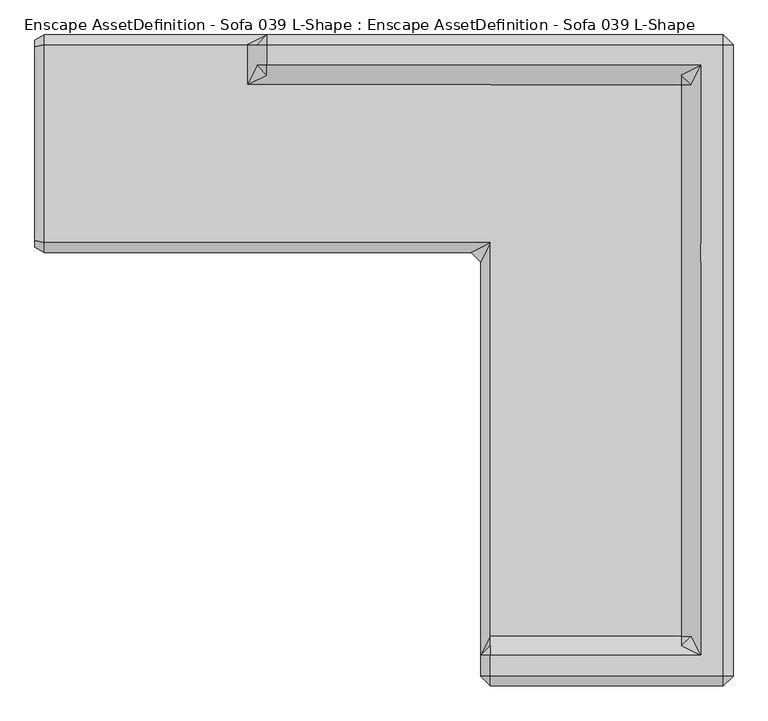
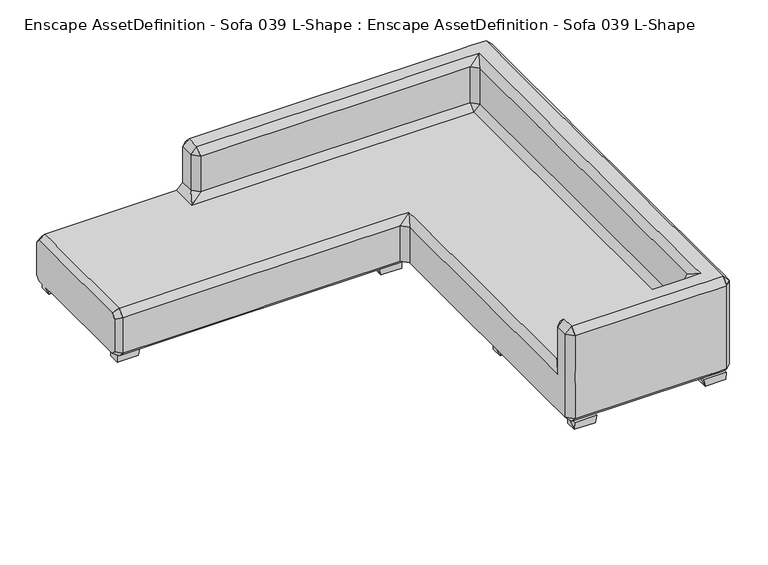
"""IFC4 building model written with IfcOpenShell, lengths in millimetres: geographic element geometry, Enscape AssetDefinition - Sofa 039 L-Shape : Enscape AssetDefinition - Sofa 039 L-Shape."""

from ifc_helpers import new_model, si_unit, origin, place, context, project, spatial, triangles, source, transform, mapped, element, save


def enscape_assetdefinition_sofa_039_l_shape_enscape_ea6e479c(model_context):
    return source(origin(), model_context, "Body", "Tessellation", [
        triangles([(399.1123392, 332.3144543, 54.8074377), (565.0836402, 247.5554382, 56.6973478), (565.0836402, 332.3144543, 54.8074377), (565.0836402, 247.5554382, 0.0), (397.1924346, 247.5554382, 54.8324362), (406.0200208, 330.4245624, 1.863913), (408.2209039, 247.5554382, 0.0), (565.0836402, 330.4245624, 0.0), (566.9734594, 1225.0928089, 54.8074377), (399.1123392, 1226.9826645, 54.8074377), (565.0836402, 1142.2235939, 0.0), (406.0200208, 1142.2235939, 1.863913), (408.2209039, 1225.0928089, 0.0), (565.0836402, 1225.0928089, 0.0), (399.1123392, 1140.3337383, 54.8074377), (566.9734594, 1142.2235939, 54.8074377), (1606.1138832, 247.5554382, 1.863913), (1765.17743, 247.5554382, 0.0), (1597.286515, 247.5554382, 54.8324362), (1765.17743, 245.6665273, 54.8074377), (1765.17743, 332.3144543, 1.8899116), (1599.2063107, 332.3144543, 54.8074377), (1608.3149117, 330.4245624, 0.0), (1765.17743, 332.3144543, 54.8074377), (1765.17743, 1226.9826645, 54.8074377), (1765.17743, 1142.2235939, 0.0), (1606.1138832, 1142.2235939, 1.863913), (1765.17743, 1225.0928089, 0.0), (1606.1138832, 1225.0928089, 1.863913), (1599.2063107, 1226.9826645, 54.8074377), (1599.2063107, 1140.3337383, 54.8074377), (1765.17743, 1140.3337383, 54.8074377), (1767.0672855, -1906.9429047, 54.8074377), (1597.286515, -1906.9429047, 54.8334399), (1765.17743, -1906.9429047, 0.0), (1597.286515, -1824.073835, 54.8334399), (1606.1138832, -1824.073835, 1.8649127), (1608.3149117, -1906.9429047, 0.0), (1765.17743, -1822.1848515, 54.8074377), (1765.17743, -1824.073835, 0.0), (1597.286515, -936.6802534, 54.8334399), (1765.17743, -938.5691643, 54.8074377), (1765.17743, -936.6802534, 0.0), (1608.3149117, -853.8101664, 0.0), (1599.2063107, -851.9211828, 54.8074377), (1765.17743, -851.9211828, 54.8074377), (1765.17743, -853.8101664, 0.0), (1608.3149117, -936.6802534, 0.0), (1597.286515, 179.2316289, 54.8324362), (1765.17743, 94.4735848, 54.8074377), (1765.17743, 181.121539, 54.8074377), (1765.17743, 96.3625048, 0.0), (1597.286515, 96.3625048, 54.8334399), (1608.3149117, 96.3625048, 0.0), (1608.3149117, 179.2316289, 0.0), (1765.17743, 181.121539, 1.8899116), (789.2041534, -1908.8327602, 54.8074377), (789.2041534, -1822.1848515, 54.8074377), (621.3429605, -1906.9429047, 1.8899116), (623.2328161, -1908.8327602, 54.8074377), (621.3429605, -1824.073835, 54.8074377), (780.0955524, -1906.9429047, 0.0), (621.3429605, -1824.073835, 1.8899116), (782.2965082, -1824.073835, 1.8649127), (621.3429605, -853.8101664, 1.8899116), (621.3429605, -853.8101664, 54.8074377), (621.3429605, -936.6802534, 54.8074377), (780.0955524, -853.8101664, 0.0), (789.2041534, -851.9211828, 54.8074377), (623.2328161, -936.6802534, 0.0), (789.2041534, -938.5691643, 54.8074377), (780.0955524, -936.6802534, 0.0), (-1419.1636665, 247.5554382, 0.0), (-1408.4432453, 247.5554382, 54.8074377), (-1578.2241611, 247.5554382, 54.8324362), (-1576.0263302, 330.4245624, 0.0), (-1578.2272133, 247.5554382, 1.863913), (-1576.3043655, 332.3144543, 54.8074377), (-1410.3331009, 332.3144543, 54.8074377), (-1419.1636665, 330.4245624, 0.0), (-1410.3331009, 1226.9826645, 54.8074377), (-1419.1636665, 1225.0928089, 0.0), (-1419.1636665, 1142.2235939, 0.0), (-1410.3331009, 1140.3337383, 54.8074377), (-1576.0263302, 1142.2235939, 0.0), (-1576.0263302, 1225.0928089, 0.0), (-1576.3043655, 1226.9826645, 54.8074377), (-1576.6453331, 1142.2235939, 56.6973478), (1802.809726, -1785.966568, 387.4318748), (1802.809726, -1785.966568, 103.9451451), (1802.809726, -1887.5208344, 103.9451451), (1802.809726, -1691.4710278, 387.4318748), (1802.809726, -1691.4710278, 103.9451451), (1802.809726, -1785.966568, 481.9274878), (1802.809726, -1691.4710278, 481.9274878), (1802.809726, 141.7433649, 481.9274878), (1802.809726, 141.7433649, 765.4142538), (1802.809726, -1785.966568, 765.4142538), (1755.5620285, -1785.966568, 812.6620239), (1802.809726, -1691.4710278, 765.4142538), (1755.5620285, -1887.5208344, 812.6620239), (1802.809726, -1887.5208344, 765.4142538), (1802.809726, -1887.5208344, 481.9274878), (1644.2230396, -1691.4710278, 812.6620239), (1755.5620285, -1691.4710278, 812.6620239), (1755.5620285, 141.7433649, 812.6620239), (1644.2230396, 141.7433649, 812.6620239), (1755.5620285, 236.2389596, 812.6620239), (1644.2230396, 236.2389596, 812.6620239), (1644.2230396, 1011.1028183, 812.6620239), (1755.5620285, 1011.1028183, 812.6620239), (1802.809726, 1011.1028183, 765.4142538), (1802.809726, 236.2389596, 765.4142538), (1802.809726, 236.2389596, 481.9274878), (1755.5620285, 1105.5983585, 812.6620239), (1802.809726, 1207.4235386, 765.4142538), (1755.5620285, 1207.4246286, 812.6620239), (1802.809726, 1105.5983585, 765.4142538), (1802.809726, 1105.5983585, 481.9274878), (1755.5620285, 1254.6713814, 765.4142538), (1644.2230396, 1254.6713814, 765.4142538), (1802.809726, 1207.4235386, 387.4318748), (1802.809726, 1207.4235386, 481.9274878), (1802.809726, 1207.4235386, 103.9451451), (1802.809726, 1105.5983585, 387.4318748), (1802.809726, 1011.1028183, 481.9274878), (1802.809726, 1011.1028183, 103.9451451), (1802.809726, 1105.5983585, 103.9451451), (1802.809726, 1011.1028183, 387.4318748), (1802.809726, 236.2389596, 103.9451451), (1755.5620285, 1011.1028183, 56.6973478), (1802.809726, 236.2389596, 387.4318748), (1802.809726, 141.7433649, 103.9451451), (1802.809726, 141.7433649, 387.4318748), (1755.5620285, -1691.4710278, 56.6973478), (1644.2230396, -1785.966568, 56.6973478), (1755.5620285, -1785.966568, 56.6973478), (1755.5620285, -1887.5208344, 56.6973478), (1644.2230396, -1887.5208344, 56.6973478), (1549.7274994, -1785.966568, 56.6973478), (614.2213022, -1887.5208344, 56.6973478), (614.2213022, -1785.966568, 56.6973478), (1549.7274994, -1691.4710278, 56.6973478), (1549.7274994, -1887.5208344, 56.6973478), (1644.2230396, -1691.4710278, 56.6973478), (566.9734594, -1887.5208344, 103.9451451), (566.9734594, -1691.4710278, 103.9451451), (614.2213022, -1691.4710278, 56.6973478), (1549.7274994, 141.7433649, 56.6973478), (566.9734594, -1785.966568, 103.9451451), (566.9734594, -1785.966568, 387.4318748), (566.9734594, -1691.4710278, 387.4318748), (566.9734594, 141.7433649, 103.9451451), (614.2213022, 141.7433649, 434.6796813), (614.2213022, -1691.4710278, 434.6796813), (1549.7274994, -1691.4710278, 434.6796813), (614.2213022, 236.2389596, 434.6796813), (566.9734594, 141.7433649, 387.4318748), (519.7257257, 188.9911531, 387.4318748), (1549.7274994, 236.2389596, 434.6796813), (519.7257257, 236.2389596, 434.6796813), (1549.7274994, 141.7433649, 434.6796813), (1549.7274994, 1011.1028183, 434.6796813), (614.2213022, 1058.3505884, 481.9274878), (1596.9753422, 1011.1028183, 765.4142538), (1596.9753422, 1011.1028183, 481.9274878), (1596.9753422, 236.2389596, 765.4142538), (1596.9753422, 141.7433649, 481.9274878), (1596.9753422, 236.2389596, 481.9274878), (1644.2230396, 1105.5983585, 812.6620239), (1644.2230396, 1207.4246286, 812.6620239), (1549.7274994, 1058.3505884, 481.9274878), (1549.7274994, 1058.3505884, 765.4142538), (614.2213022, 1105.5983585, 812.6620239), (1549.7274994, 1105.5983585, 812.6620239), (1549.7274994, 1254.6713814, 765.4142538), (1549.7274994, 1207.4246286, 812.6620239), (519.7257257, 1207.4246286, 812.6620239), (614.2213022, 1207.4246286, 812.6620239), (614.2213022, 1058.3505884, 765.4142538), (519.7257257, 1105.5983585, 812.6620239), (519.7257257, 1058.3505884, 765.4142538), (-480.560529, 1207.4246286, 812.6620239), (-527.8082992, 1105.5983585, 765.4142538), (-480.560529, 1105.5983585, 812.6620239), (-480.560529, 1058.3505884, 765.4142538), (519.7257257, 1058.3505884, 481.9274878), (-480.560529, 1058.3505884, 481.9274878), (614.2213022, 1011.1028183, 434.6796813), (-527.8082992, 1105.5983585, 481.9274878), (519.7257257, 1011.1028183, 434.6796813), (-575.0561419, 1011.1028183, 434.6796813), (-480.560529, 1011.1028183, 434.6796813), (-575.0561419, 236.2389596, 434.6796813), (-1568.6267818, 1011.1028183, 434.6796813), (-1568.6267818, 236.2389596, 434.6796813), (-1615.4085194, 247.4074276, 407.7149755), (-575.0561419, 188.9911531, 387.4318748), (-1615.4085194, 215.9559135, 376.2624258), (-1568.6267818, 188.9911531, 387.4318748), (-1568.6267818, 188.9911531, 103.9451451), (-575.0561419, 188.9911531, 103.9451451), (-1568.6267818, 236.2389596, 56.6973478), (-1615.4085194, 215.9559135, 115.1146214), (-1615.4085194, 247.4084268, 83.6620809), (-575.0570867, 1011.1028183, 56.6973478), (-575.0561419, 236.2389596, 56.6973478), (-480.560529, 188.9911531, 387.4318748), (-480.560529, 188.9911531, 103.9451451), (-480.560529, 236.2389596, 56.6973478), (519.7257257, 1011.1028183, 56.6973478), (519.7257257, 236.2389596, 56.6973478), (614.2213022, 236.2389596, 56.6973478), (519.7257257, 188.9911531, 103.9451451), (-480.560529, 236.2389596, 434.6796813), (1549.7274994, 1011.1028183, 56.6973478), (614.2213022, 1011.1028183, 56.6973478), (614.2213022, 141.7433649, 56.6973478), (1549.7274994, 1105.5983585, 56.6973478), (519.7257257, 1207.4235386, 56.6973478), (614.2213022, 1105.5983585, 56.6973478), (1644.2230396, 1105.5983585, 56.6973478), (1644.2230396, 1207.4235386, 56.6973478), (1755.5620285, 1254.6713814, 103.9451451), (1549.7274994, 1207.4235386, 56.6973478), (1644.2230396, 1254.6713814, 103.9451451), (614.2213022, 1207.4235386, 56.6973478), (1549.7274994, 1254.6713814, 103.9451451), (614.2213022, 1254.6713814, 103.9451451), (1644.2230396, 1254.6713814, 481.9274878), (1644.2230396, 1254.6713814, 387.4318748), (1549.7274994, 1254.6713814, 387.4318748), (614.2213022, 1254.6713814, 387.4318748), (519.7257257, 1254.6713814, 387.4318748), (614.2213022, 1254.6713814, 481.9274878), (519.7257257, 1254.6713814, 103.9451451), (-480.560529, 1254.6713814, 387.4318748), (-480.5615101, 1207.4235386, 56.6973478), (-480.5615101, 1254.6713814, 103.9451451), (-1568.6267818, 1207.4235386, 56.6973478), (-480.5615101, 1105.5983585, 56.6973478), (-575.0570867, 1207.4235386, 56.6973478), (-1568.6267818, 1105.5983585, 56.6973478), (-575.0570867, 1254.6713814, 103.9451451), (-575.0561419, 1207.4235386, 434.6796813), (-575.0561419, 1254.6713814, 387.4318748), (519.7257257, 1254.6713814, 481.9274878), (-527.8082992, 1207.4235386, 481.9274878), (-527.8082992, 1207.4235386, 765.4142538), (-480.560529, 1254.6713814, 481.9274878), (-480.560529, 1254.6713814, 765.4142538), (519.7257257, 1254.6713814, 765.4142538), (614.2213022, 1254.6713814, 765.4142538), (1549.7274994, 1254.6713814, 481.9274878), (1755.5620285, 1254.6713814, 481.9274878), (1755.5620285, 1254.6713814, 387.4318748), (-575.0561419, 1105.5983585, 434.6796813), (-1615.4085194, 1196.2541622, 407.7149755), (-1568.6267818, 1105.5983585, 434.6796813), (-1568.6267818, 1207.4235386, 434.6796813), (-1568.6267818, 1254.6713814, 387.4318748), (-1615.4085194, 1227.7076202, 376.2634068), (-1615.4085194, 1227.7076202, 115.1146214), (-1615.4085194, 1105.5983585, 407.7149755), (-1615.4085194, 1011.1028183, 83.6620809), (-1615.4085194, 1011.1028183, 407.7149755), (-1615.4085194, 1105.5983585, 83.6610907), (-1615.4085194, 1196.2541622, 83.6610907), (-1568.6267818, 1254.6713814, 103.9451451), (-1568.6267818, 1011.1028183, 56.6973478), (-575.0570867, 1105.5983585, 56.6973478), (-480.5615101, 1011.1028183, 56.6973478), (519.7257257, 1105.5983585, 56.6973478), (1755.5620285, 1207.4235386, 56.6973478), (1755.5620285, 1105.5983585, 56.6973478), (1644.2230396, 1011.1028183, 56.6973478), (1549.7274994, 236.2389596, 56.6973478), (1644.2230396, 236.2389596, 56.6973478), (1644.2230396, 141.7433649, 56.6973478), (1755.5620285, 236.2389596, 56.6973478), (1755.5620285, 141.7433649, 56.6973478), (1596.9753422, 141.7433649, 765.4142538), (1596.9753422, -1691.4710278, 481.9274878), (1549.7274994, -1738.7187252, 481.9274878), (1596.9753422, -1691.4710278, 765.4142538), (614.2213022, -1738.7187252, 481.9274878), (1549.7274994, -1738.7187252, 765.4142538), (1549.7274994, -1785.966568, 812.6620239), (1644.2230396, -1887.5208344, 812.6620239), (1644.2230396, -1785.966568, 812.6620239), (1549.7274994, -1887.5208344, 812.6620239), (614.2213022, -1738.7187252, 765.4142538), (566.9734594, -1785.966568, 765.4142538), (566.9734594, -1785.966568, 481.9274878), (614.2213022, -1887.5208344, 812.6620239), (614.2213022, -1785.966568, 812.6620239), (566.9734594, -1887.5208344, 765.4142538), (614.2213022, -1934.7686771, 765.4142538), (1549.7274994, -1934.7686771, 765.4142538), (1644.2230396, -1934.7686771, 765.4142538), (1755.5620285, -1934.7686771, 765.4142538), (1644.2230396, -1934.7686771, 387.4318748), (1644.2230396, -1934.7686771, 481.9274878), (1549.7274994, -1934.7686771, 481.9274878), (566.9734594, -1887.5208344, 481.9274878), (614.2213022, -1934.7686771, 481.9274878), (1549.7274994, -1934.7686771, 387.4318748), (1549.7274994, -1934.7686771, 103.9451451), (1644.2230396, -1934.7686771, 103.9451451), (1755.5620285, -1934.7686771, 103.9451451), (1802.809726, -1887.5208344, 387.4318748), (1755.5620285, -1934.7686771, 387.4318748), (1755.5620285, -1934.7686771, 481.9274878), (614.2213022, -1934.7686771, 103.9451451), (614.2213022, -1934.7686771, 387.4318748), (566.9734594, -1887.5208344, 387.4318748)], [[156, 168, 162], [316, 305, 294], [315, 305, 316], [146, 315, 316], [146, 314, 315], [289, 301, 101], [102, 101, 301], [313, 102, 301], [301, 303, 313], [313, 103, 102], [103, 313, 312], [303, 312, 313], [310, 311, 312], [103, 312, 311], [312, 309, 310], [308, 309, 302], [303, 302, 312], [312, 302, 309], [307, 315, 314], [308, 302, 307], [307, 314, 308], [306, 315, 307], [315, 306, 305], [304, 307, 302], [306, 307, 304], [304, 302, 303], [304, 303, 300], [289, 300, 301], [301, 300, 303], [304, 300, 299], [299, 306, 304], [305, 306, 298], [299, 298, 306], [305, 298, 297], [295, 298, 299], [298, 295, 297], [300, 289, 291], [295, 299, 291], [300, 291, 299], [296, 295, 291], [293, 297, 295], [293, 294, 305], [293, 295, 296], [293, 305, 297], [293, 286, 294], [293, 292, 286], [293, 296, 292], [288, 291, 289], [288, 292, 296], [296, 291, 288], [290, 289, 101], [288, 289, 290], [288, 287, 292], [287, 288, 290], [287, 284, 286], [287, 286, 292], [285, 287, 290], [156, 283, 168], [287, 285, 283], [287, 283, 284], [284, 283, 156], [282, 168, 283], [282, 283, 285], [218, 277, 149], [145, 149, 279], [277, 279, 149], [281, 145, 279], [279, 280, 281], [278, 277, 216], [279, 278, 280], [277, 278, 279], [278, 216, 276], [131, 280, 278], [131, 278, 276], [276, 275, 131], [128, 131, 275], [274, 128, 275], [274, 124, 128], [272, 273, 211], [272, 241, 273], [206, 241, 272], [206, 271, 241], [205, 265, 270], [270, 271, 206], [270, 243, 271], [268, 240, 243], [268, 269, 240], [268, 263, 269], [267, 243, 270], [263, 268, 267], [267, 270, 265], [268, 243, 267], [265, 205, 266], [267, 265, 266], [266, 264, 267], [262, 263, 264], [264, 263, 267], [258, 262, 264], [263, 262, 261], [258, 261, 262], [263, 261, 269], [258, 260, 261], [258, 264, 259], [258, 259, 260], [266, 259, 264], [245, 260, 259], [190, 245, 257], [245, 261, 260], [245, 259, 257], [255, 256, 231], [255, 231, 230], [121, 255, 230], [230, 176, 121], [230, 254, 176], [253, 176, 254], [253, 254, 235], [235, 252, 253], [235, 247, 252], [251, 252, 247], [250, 249, 251], [251, 247, 250], [190, 248, 245], [250, 248, 249], [248, 190, 184], [248, 184, 249], [245, 248, 237], [247, 237, 250], [248, 250, 237], [245, 246, 261], [237, 246, 245], [240, 269, 244], [261, 246, 244], [261, 244, 269], [242, 271, 243], [241, 271, 242], [242, 243, 240], [240, 244, 242], [239, 244, 246], [239, 246, 237], [239, 242, 244], [239, 238, 242], [241, 242, 238], [220, 273, 241], [220, 241, 238], [238, 239, 236], [238, 236, 220], [237, 236, 239], [247, 234, 237], [237, 234, 236], [229, 236, 234], [220, 236, 229], [220, 229, 227], [247, 235, 233], [229, 234, 233], [254, 233, 235], [247, 233, 234], [254, 232, 233], [230, 231, 232], [230, 232, 254], [227, 229, 228], [233, 232, 228], [233, 228, 229], [227, 228, 225], [226, 228, 232], [226, 232, 231], [226, 225, 228], [124, 224, 256], [231, 256, 224], [224, 124, 274], [231, 224, 226], [223, 226, 224], [226, 223, 225], [223, 224, 274], [276, 222, 275], [222, 276, 216], [274, 275, 222], [222, 225, 223], [274, 222, 223], [222, 219, 225], [222, 216, 219], [221, 273, 220], [211, 273, 221], [225, 219, 221], [221, 220, 227], [225, 221, 227], [217, 221, 219], [217, 219, 216], [211, 221, 217], [218, 213, 277], [216, 277, 213], [213, 211, 217], [213, 218, 153], [216, 213, 217], [194, 208, 215], [159, 161, 215], [159, 215, 208], [153, 214, 213], [153, 159, 214], [213, 212, 211], [214, 212, 213], [211, 212, 210], [210, 206, 272], [211, 210, 272], [209, 210, 212], [159, 208, 209], [209, 212, 214], [159, 209, 214], [208, 202, 209], [210, 207, 206], [209, 202, 207], [209, 207, 210], [205, 270, 203], [206, 207, 203], [206, 203, 270], [204, 205, 203], [205, 204, 199], [204, 203, 201], [201, 203, 207], [201, 207, 202], [208, 198, 202], [194, 198, 208], [198, 201, 202], [204, 201, 200], [204, 200, 199], [198, 200, 201], [197, 199, 200], [197, 266, 205], [199, 197, 205], [197, 200, 196], [198, 194, 196], [198, 196, 200], [197, 196, 195], [266, 195, 259], [197, 195, 266], [195, 196, 194], [192, 257, 259], [192, 259, 195], [190, 257, 192], [195, 194, 192], [194, 215, 193], [193, 215, 161], [194, 193, 192], [161, 189, 191], [193, 161, 191], [188, 190, 192], [192, 193, 188], [191, 188, 193], [190, 188, 186], [190, 186, 184], [191, 187, 188], [187, 191, 189], [186, 188, 187], [187, 189, 164], [187, 164, 180], [180, 164, 172], [187, 180, 182], [186, 187, 182], [182, 185, 186], [184, 186, 185], [184, 185, 183], [184, 183, 249], [249, 183, 251], [178, 252, 251], [253, 252, 178], [178, 251, 183], [182, 181, 185], [181, 182, 180], [183, 185, 181], [183, 181, 178], [181, 180, 174], [181, 174, 179], [181, 179, 178], [253, 178, 179], [177, 176, 253], [177, 253, 179], [176, 177, 171], [176, 171, 121], [179, 174, 175], [175, 171, 177], [179, 175, 177], [173, 175, 174], [173, 174, 180], [180, 172, 173], [175, 170, 171], [170, 175, 173], [165, 173, 172], [110, 170, 165], [165, 170, 173], [167, 110, 165], [169, 168, 282], [169, 282, 167], [169, 162, 168], [165, 169, 167], [165, 166, 169], [165, 172, 166], [163, 172, 164], [163, 164, 189], [166, 172, 163], [160, 169, 166], [169, 160, 162], [160, 166, 163], [189, 160, 163], [162, 160, 157], [161, 157, 189], [161, 159, 157], [189, 157, 160], [153, 158, 159], [159, 158, 157], [162, 157, 154], [158, 154, 157], [154, 156, 162], [284, 156, 155], [154, 155, 156], [284, 155, 286], [152, 155, 154], [152, 158, 153], [152, 154, 158], [151, 294, 286], [155, 152, 151], [316, 294, 151], [151, 286, 155], [151, 146, 316], [151, 150, 146], [151, 152, 147], [151, 147, 150], [152, 153, 147], [148, 147, 153], [148, 153, 218], [149, 148, 218], [145, 143, 149], [149, 143, 148], [142, 148, 143], [147, 148, 142], [147, 142, 150], [141, 146, 150], [141, 150, 142], [314, 146, 141], [144, 308, 314], [309, 308, 144], [144, 314, 141], [140, 143, 145], [140, 144, 141], [142, 143, 140], [140, 141, 142], [140, 145, 136], [139, 144, 140], [139, 140, 136], [309, 144, 139], [138, 310, 309], [138, 309, 139], [310, 91, 311], [91, 310, 138], [137, 138, 139], [137, 91, 138], [137, 139, 136], [136, 145, 135], [281, 135, 145], [136, 135, 137], [137, 90, 91], [90, 137, 135], [281, 93, 135], [90, 135, 93], [281, 133, 93], [134, 93, 133], [114, 96, 134], [133, 132, 134], [114, 134, 132], [133, 130, 132], [130, 133, 281], [131, 130, 280], [130, 281, 280], [131, 127, 130], [128, 127, 131], [114, 132, 129], [129, 132, 130], [129, 130, 127], [114, 129, 126], [127, 128, 125], [127, 125, 129], [125, 126, 129], [122, 125, 128], [124, 256, 122], [255, 122, 256], [122, 128, 124], [119, 125, 122], [125, 119, 126], [255, 123, 122], [119, 122, 123], [123, 255, 120], [121, 120, 255], [117, 120, 121], [117, 121, 171], [123, 120, 116], [120, 117, 116], [116, 119, 123], [126, 119, 118], [116, 118, 119], [115, 118, 116], [171, 170, 115], [115, 116, 117], [171, 115, 117], [111, 115, 170], [111, 170, 110], [115, 111, 112], [126, 118, 112], [115, 112, 118], [112, 114, 126], [96, 114, 113], [112, 113, 114], [96, 113, 97], [108, 113, 112], [108, 112, 111], [108, 97, 113], [110, 108, 111], [167, 109, 110], [109, 167, 282], [110, 109, 108], [106, 108, 109], [108, 106, 97], [285, 107, 282], [106, 109, 107], [109, 282, 107], [285, 104, 107], [290, 104, 285], [107, 104, 105], [105, 97, 106], [107, 105, 106], [99, 105, 104], [99, 104, 290], [290, 101, 99], [101, 102, 98], [98, 102, 103], [101, 98, 99], [105, 100, 97], [100, 105, 99], [100, 99, 98], [97, 100, 95], [95, 134, 96], [97, 95, 96], [94, 95, 100], [94, 100, 98], [98, 103, 94], [90, 93, 92], [95, 92, 134], [134, 92, 93], [94, 92, 95], [103, 311, 89], [94, 89, 92], [89, 311, 91], [103, 89, 94], [90, 92, 89], [89, 91, 90], [85, 84, 88], [87, 85, 88], [87, 86, 85], [85, 86, 82], [85, 83, 84], [85, 82, 83], [88, 84, 81], [86, 87, 81], [81, 84, 83], [88, 81, 87], [86, 81, 82], [81, 83, 82], [76, 79, 80], [76, 78, 79], [77, 76, 80], [78, 76, 77], [78, 77, 75], [77, 80, 73], [79, 73, 80], [74, 79, 78], [79, 74, 73], [74, 75, 77], [74, 78, 75], [74, 77, 73], [69, 72, 68], [69, 71, 72], [72, 71, 67], [72, 67, 70], [72, 65, 68], [72, 70, 65], [71, 66, 67], [68, 66, 69], [66, 70, 67], [71, 69, 66], [68, 65, 66], [66, 65, 70], [64, 63, 61], [64, 61, 58], [62, 63, 64], [58, 62, 64], [58, 57, 62], [62, 59, 63], [61, 63, 59], [60, 58, 61], [61, 59, 60], [60, 62, 57], [60, 57, 58], [60, 59, 62], [55, 51, 56], [55, 49, 51], [54, 55, 56], [49, 55, 54], [49, 54, 53], [54, 56, 52], [51, 52, 56], [50, 51, 49], [51, 50, 52], [50, 53, 54], [50, 49, 53], [50, 54, 52], [48, 42, 41], [45, 48, 41], [45, 44, 48], [48, 44, 47], [48, 43, 42], [48, 47, 43], [41, 42, 46], [44, 45, 46], [46, 42, 43], [41, 46, 45], [44, 46, 47], [46, 43, 47], [37, 39, 40], [37, 36, 39], [38, 37, 40], [36, 37, 38], [36, 38, 34], [38, 40, 35], [39, 35, 40], [33, 39, 36], [39, 33, 35], [33, 34, 38], [33, 36, 34], [33, 38, 35], [27, 32, 31], [30, 27, 31], [30, 29, 27], [27, 29, 28], [27, 26, 32], [27, 28, 26], [31, 32, 25], [29, 30, 25], [25, 32, 26], [31, 25, 30], [29, 25, 28], [25, 26, 28], [23, 24, 21], [23, 22, 24], [17, 23, 21], [22, 23, 17], [22, 17, 19], [17, 21, 18], [24, 18, 21], [20, 24, 22], [24, 20, 18], [20, 19, 17], [20, 22, 19], [20, 17, 18], [12, 16, 15], [10, 12, 15], [10, 13, 12], [12, 13, 14], [12, 11, 16], [12, 14, 11], [15, 16, 9], [13, 10, 9], [9, 16, 11], [15, 9, 10], [13, 9, 14], [9, 11, 14], [6, 3, 8], [6, 1, 3], [7, 6, 8], [1, 6, 7], [1, 7, 5], [7, 8, 4], [3, 4, 8], [2, 3, 1], [3, 2, 4], [2, 5, 7], [2, 1, 5], [2, 7, 4]]),
    ])


if __name__ == "__main__":
    model = new_model("IFC4")
    model_context = context("Model", 3, world=origin())
    ifc_project = project(units=[si_unit("LENGTHUNIT", "METRE", prefix="MILLI")], contexts=[model_context])
    site = spatial("IfcSite", under=ifc_project)
    building = spatial("IfcBuilding", under=site)
    placement = place(None, origin())
    enscape_assetdefinition_sofa_039_l_shape_enscape_shape = enscape_assetdefinition_sofa_039_l_shape_enscape_ea6e479c(model_context)
    element("IfcGeographicElement", 1, ObjectType="Enscape AssetDefinition - Sofa 039 L-Shape : Enscape AssetDefinition - Sofa 039 L-Shape", at=placement, inside=building, context=model_context, shape_type="MappedRepresentation", body=[
        mapped(enscape_assetdefinition_sofa_039_l_shape_enscape_shape, transform((0.0, 0.0, 0.0), x_axis=(1.0, 0.0, 0.0), y_axis=(0.0, 1.0, 0.0), z_axis=(0.0, 0.0, 1.0))),
    ])
    save(model, "model.ifc")
